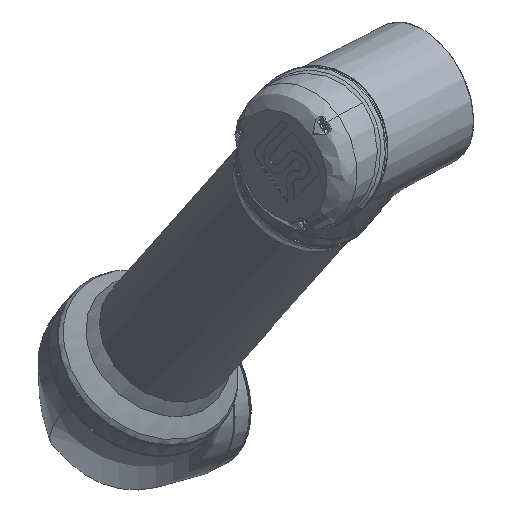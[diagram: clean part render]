
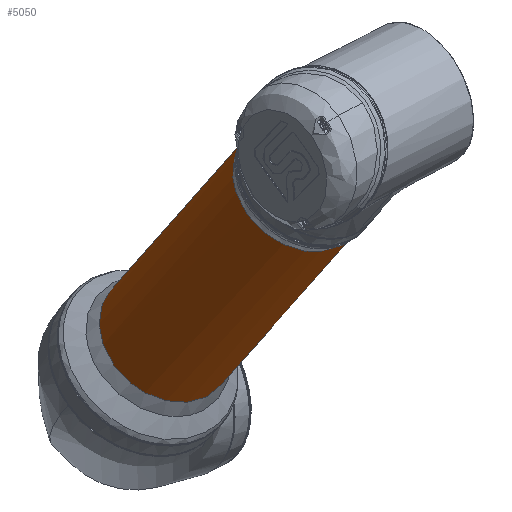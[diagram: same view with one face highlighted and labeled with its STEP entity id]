
A CAD part, isometric view. The second image highlights one B-rep face of the part: STEP entity #5050.
In plain terms, the highlighted cylindrical face has radius 42.5 mm (diameter 85 mm), a full revolution.
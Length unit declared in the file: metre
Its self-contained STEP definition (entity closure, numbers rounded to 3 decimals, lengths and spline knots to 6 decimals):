
#137=CYLINDRICAL_SURFACE('',#6077,0.0425);
#418=B_SPLINE_CURVE_WITH_KNOTS('',3,(#6899,#6900,#6901,#6902,#6903,#6904,
#6905),.UNSPECIFIED.,.F.,.F.,(4,1,1,1,4),(270.,292.5,315.,337.5,360.),
 .UNSPECIFIED.);
#419=B_SPLINE_CURVE_WITH_KNOTS('',3,(#6908,#6909,#6910,#6911,#6912,#6913,
#6914),.UNSPECIFIED.,.F.,.F.,(4,1,1,1,4),(180.,202.5,225.,247.5,270.),
 .UNSPECIFIED.);
#420=B_SPLINE_CURVE_WITH_KNOTS('',3,(#6916,#6917,#6918,#6919,#6920,#6921,
#6922),.UNSPECIFIED.,.F.,.F.,(4,1,1,1,4),(90.,112.5,135.,157.5,180.),
 .UNSPECIFIED.);
#421=B_SPLINE_CURVE_WITH_KNOTS('',3,(#6924,#6925,#6926,#6927,#6928,#6929,
#6930),.UNSPECIFIED.,.F.,.F.,(4,1,1,1,4),(0.,22.5,45.,67.5,90.),
 .UNSPECIFIED.);
#422=B_SPLINE_CURVE_WITH_KNOTS('',3,(#6932,#6933,#6934,#6935,#6936,#6937,
#6938),.UNSPECIFIED.,.F.,.F.,(4,1,1,1,4),(270.,292.5,315.,337.5,360.),
 .UNSPECIFIED.);
#423=B_SPLINE_CURVE_WITH_KNOTS('',3,(#6941,#6942,#6943,#6944,#6945,#6946,
#6947),.UNSPECIFIED.,.F.,.F.,(4,1,1,1,4),(180.,202.5,225.,247.5,270.),
 .UNSPECIFIED.);
#424=B_SPLINE_CURVE_WITH_KNOTS('',3,(#6949,#6950,#6951,#6952,#6953,#6954,
#6955),.UNSPECIFIED.,.F.,.F.,(4,1,1,1,4),(90.,112.5,135.,157.5,180.),
 .UNSPECIFIED.);
#425=B_SPLINE_CURVE_WITH_KNOTS('',3,(#6957,#6958,#6959,#6960,#6961,#6962,
#6963),.UNSPECIFIED.,.F.,.F.,(4,1,1,1,4),(0.,22.5,45.,67.5,90.),
 .UNSPECIFIED.);
#1299=ORIENTED_EDGE('',*,*,#2703,.T.);
#1300=ORIENTED_EDGE('',*,*,#2706,.T.);
#1301=ORIENTED_EDGE('',*,*,#2705,.T.);
#1302=ORIENTED_EDGE('',*,*,#2704,.T.);
#1303=ORIENTED_EDGE('',*,*,#2710,.T.);
#1304=ORIENTED_EDGE('',*,*,#2709,.T.);
#1305=ORIENTED_EDGE('',*,*,#2708,.T.);
#1306=ORIENTED_EDGE('',*,*,#2707,.T.);
#2703=EDGE_CURVE('NONE',#3504,#3505,#418,.T.);
#2704=EDGE_CURVE('NONE',#3506,#3504,#419,.T.);
#2705=EDGE_CURVE('NONE',#3507,#3506,#420,.T.);
#2706=EDGE_CURVE('NONE',#3505,#3507,#421,.T.);
#2707=EDGE_CURVE('NONE',#3508,#3509,#422,.T.);
#2708=EDGE_CURVE('NONE',#3510,#3508,#423,.T.);
#2709=EDGE_CURVE('NONE',#3511,#3510,#424,.T.);
#2710=EDGE_CURVE('NONE',#3509,#3511,#425,.T.);
#3504=VERTEX_POINT('',#6906);
#3505=VERTEX_POINT('',#6907);
#3506=VERTEX_POINT('',#6915);
#3507=VERTEX_POINT('',#6923);
#3508=VERTEX_POINT('',#6939);
#3509=VERTEX_POINT('',#6940);
#3510=VERTEX_POINT('',#6948);
#3511=VERTEX_POINT('',#6956);
#4156=EDGE_LOOP('',(#1299,#1300,#1301,#1302));
#4157=EDGE_LOOP('',(#1303,#1304,#1305,#1306));
#4528=FACE_BOUND('',#4156,.T.);
#4529=FACE_BOUND('',#4157,.T.);
#5050=ADVANCED_FACE('NONE',(#4528,#4529),#137,.T.);
#6077=AXIS2_PLACEMENT_3D('',#9932,#6375,#6376);
#6375=DIRECTION('',(0.046,-0.549,0.834));
#6376=DIRECTION('',(0.998,0.,-0.055));
#6899=CARTESIAN_POINT('',(0.068302,0.449826,0.535386));
#6900=CARTESIAN_POINT('',(0.073856,0.449826,0.535081));
#6901=CARTESIAN_POINT('',(0.084897,0.447978,0.533256));
#6902=CARTESIAN_POINT('',(0.098738,0.44008,0.527293));
#6903=CARTESIAN_POINT('',(0.107749,0.42826,0.519011));
#6904=CARTESIAN_POINT('',(0.109623,0.418966,0.512787));
#6905=CARTESIAN_POINT('',(0.109455,0.414318,0.509734));
#6906=CARTESIAN_POINT('',(0.068302,0.449826,0.535386));
#6907=CARTESIAN_POINT('',(0.109455,0.414318,0.509734));
#6908=CARTESIAN_POINT('',(0.024583,0.414318,0.514402));
#6909=CARTESIAN_POINT('',(0.024751,0.418966,0.517454));
#6910=CARTESIAN_POINT('',(0.027296,0.42826,0.523436));
#6911=CARTESIAN_POINT('',(0.037162,0.44008,0.530679));
#6912=CARTESIAN_POINT('',(0.051573,0.447978,0.535088));
#6913=CARTESIAN_POINT('',(0.062747,0.449826,0.535692));
#6914=CARTESIAN_POINT('',(0.068302,0.449826,0.535386));
#6915=CARTESIAN_POINT('',(0.024583,0.414318,0.514402));
#6916=CARTESIAN_POINT('',(0.065737,0.378809,0.488749));
#6917=CARTESIAN_POINT('',(0.060182,0.378809,0.489055));
#6918=CARTESIAN_POINT('',(0.049142,0.380658,0.49088));
#6919=CARTESIAN_POINT('',(0.035301,0.388556,0.496843));
#6920=CARTESIAN_POINT('',(0.026289,0.400376,0.505124));
#6921=CARTESIAN_POINT('',(0.024415,0.40967,0.511349));
#6922=CARTESIAN_POINT('',(0.024583,0.414318,0.514402));
#6923=CARTESIAN_POINT('',(0.065737,0.378809,0.488749));
#6924=CARTESIAN_POINT('',(0.109455,0.414318,0.509734));
#6925=CARTESIAN_POINT('',(0.109287,0.40967,0.506682));
#6926=CARTESIAN_POINT('',(0.106742,0.400376,0.5007));
#6927=CARTESIAN_POINT('',(0.096877,0.388556,0.493457));
#6928=CARTESIAN_POINT('',(0.082465,0.380658,0.489047));
#6929=CARTESIAN_POINT('',(0.071292,0.378809,0.488444));
#6930=CARTESIAN_POINT('',(0.065737,0.378809,0.488749));
#6932=CARTESIAN_POINT('',(0.057223,0.480778,0.333943));
#6933=CARTESIAN_POINT('',(0.062778,0.480778,0.333638));
#6934=CARTESIAN_POINT('',(0.073952,0.482626,0.334241));
#6935=CARTESIAN_POINT('',(0.088363,0.490524,0.338651));
#6936=CARTESIAN_POINT('',(0.098229,0.502344,0.345894));
#6937=CARTESIAN_POINT('',(0.100774,0.511638,0.351876));
#6938=CARTESIAN_POINT('',(0.100942,0.516286,0.354928));
#6939=CARTESIAN_POINT('',(0.057223,0.480778,0.333943));
#6940=CARTESIAN_POINT('',(0.100942,0.516286,0.354928));
#6941=CARTESIAN_POINT('',(0.01607,0.516286,0.359595));
#6942=CARTESIAN_POINT('',(0.015902,0.511638,0.356543));
#6943=CARTESIAN_POINT('',(0.017776,0.502344,0.350318));
#6944=CARTESIAN_POINT('',(0.026787,0.490524,0.342037));
#6945=CARTESIAN_POINT('',(0.040628,0.482626,0.336074));
#6946=CARTESIAN_POINT('',(0.051669,0.480778,0.334249));
#6947=CARTESIAN_POINT('',(0.057223,0.480778,0.333943));
#6948=CARTESIAN_POINT('',(0.01607,0.516286,0.359595));
#6949=CARTESIAN_POINT('',(0.059788,0.551795,0.38058));
#6950=CARTESIAN_POINT('',(0.054233,0.551795,0.380885));
#6951=CARTESIAN_POINT('',(0.043059,0.549946,0.380282));
#6952=CARTESIAN_POINT('',(0.028648,0.542048,0.375873));
#6953=CARTESIAN_POINT('',(0.018783,0.530228,0.36863));
#6954=CARTESIAN_POINT('',(0.016238,0.520934,0.362648));
#6955=CARTESIAN_POINT('',(0.01607,0.516286,0.359595));
#6956=CARTESIAN_POINT('',(0.059788,0.551795,0.38058));
#6957=CARTESIAN_POINT('',(0.100942,0.516286,0.354928));
#6958=CARTESIAN_POINT('',(0.10111,0.520934,0.35798));
#6959=CARTESIAN_POINT('',(0.099236,0.530228,0.364205));
#6960=CARTESIAN_POINT('',(0.090224,0.542048,0.372486));
#6961=CARTESIAN_POINT('',(0.076383,0.549946,0.37845));
#6962=CARTESIAN_POINT('',(0.065343,0.551795,0.380275));
#6963=CARTESIAN_POINT('',(0.059788,0.551795,0.38058));
#9932=CARTESIAN_POINT('',(0.067982,0.402787,0.529574));
